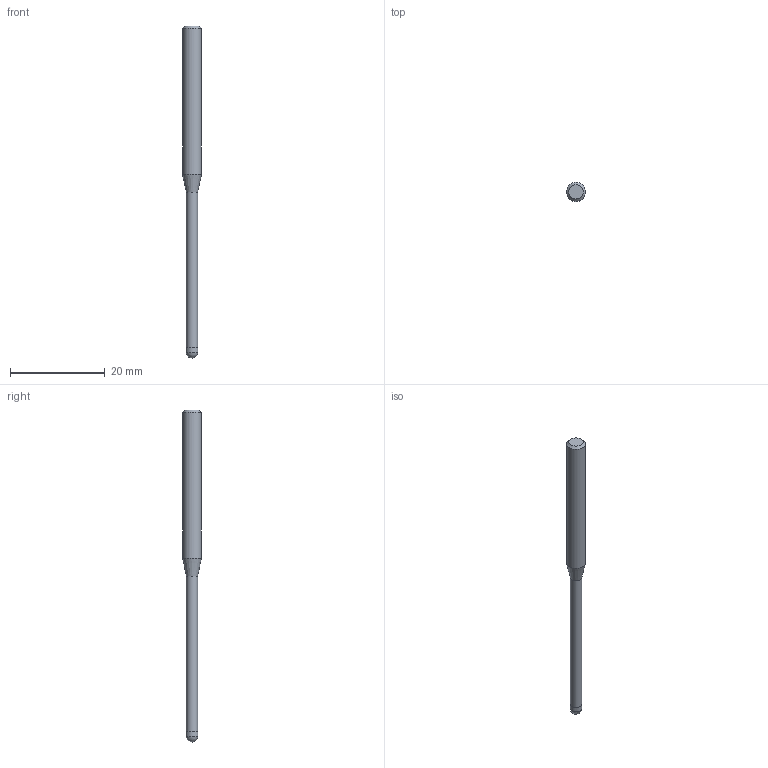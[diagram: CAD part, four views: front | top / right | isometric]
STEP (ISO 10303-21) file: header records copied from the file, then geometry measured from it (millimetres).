
FILE_DESCRIPTION((''),'2;1');
FILE_NAME('C:\Users\nsx150\AppData\Local\Temp\Mastercam 2021\3SYKECWX22\TEMP.step','2021-04-22T10:04:45',(''),(''),'STEP Write','Mastercam 2021 ... CNC Software, Inc.','');
FILE_SCHEMA(('AUTOMOTIVE_DESIGN'));
Length unit declared in the file: millimetre
Products named in the file (1): None
Bounding box: 4 x 4 x 70 mm (x, y, z)
Volume: 579.2 mm3; surface area: 713.8 mm2
Topology: 2 solids, 2 shells, 9 faces, 14 edges, 8 vertices
Faces by surface type: plane 3, cylinder 3, cone 2, sphere 1
Full cylindrical faces by diameter (mm): 2.4 x1, 2.5 x1, 4 x1
Entity records: 211 total; most frequent: DIRECTION 36, CARTESIAN_POINT 25, AXIS2_PLACEMENT_3D 18, ORIENTED_EDGE 14, EDGE_LOOP 14, STYLED_ITEM 12, ADVANCED_FACE 9, FACE_BOUND 8
